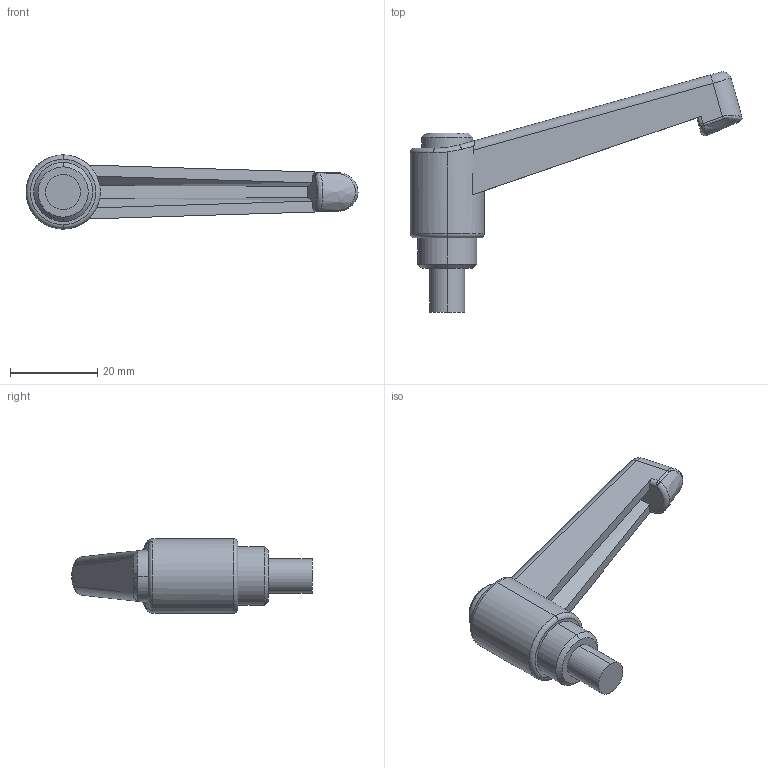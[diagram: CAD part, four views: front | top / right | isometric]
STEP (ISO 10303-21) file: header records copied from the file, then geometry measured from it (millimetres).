
FILE_DESCRIPTION (( 'STEP AP203' ), '1' );
FILE_NAME ('AS-406-63-M8.STEP', '2015-11-23T07:11:52', ( '' ), ( '' ), 'SwSTEP 2.0', 'SolidWorks 2014', '' );
FILE_SCHEMA (( 'CONFIG_CONTROL_DESIGN' ));
Length unit declared in the file: millimetre
Products named in the file (1): AS-406-63-M8
Bounding box: 76.02 x 55.03 x 17 mm (x, y, z)
Volume: 11907.8 mm3; surface area: 4900.8 mm2
Topology: 1 solids, 1 shells, 54 faces, 128 edges, 78 vertices
Faces by surface type: plane 16, cylinder 15, bspline 11, torus 4, cone 4, sphere 4
Entity records: 2133 total; most frequent: CARTESIAN_POINT 907, ORIENTED_EDGE 256, DIRECTION 225, EDGE_CURVE 128, AXIS2_PLACEMENT_3D 94, VERTEX_POINT 78, EDGE_LOOP 56, FACE_OUTER_BOUND 54
